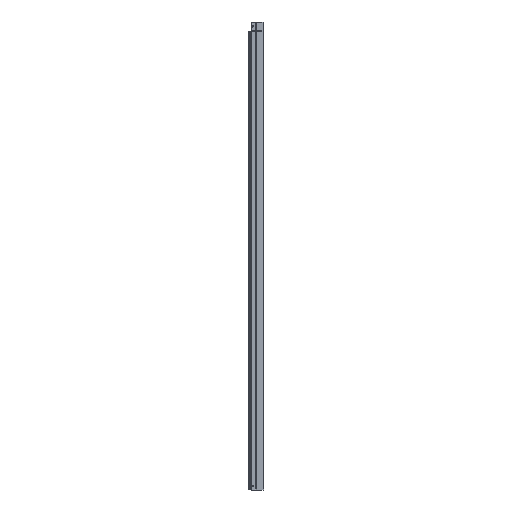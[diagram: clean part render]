
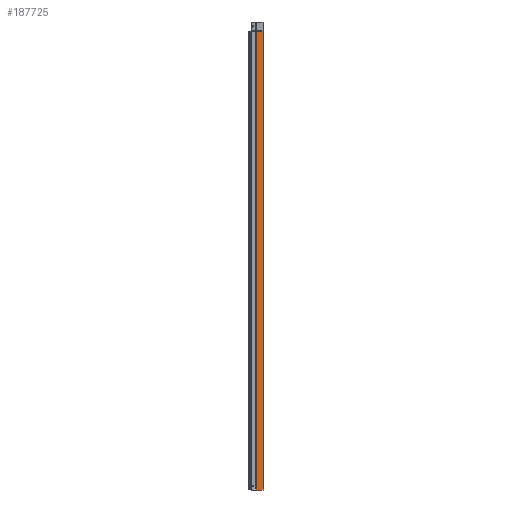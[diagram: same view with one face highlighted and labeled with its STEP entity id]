
A CAD part, left-side view. The second image highlights one B-rep face of the part: STEP entity #187725.
In plain terms, the highlighted planar face has unit normal (-1, 0, 0).
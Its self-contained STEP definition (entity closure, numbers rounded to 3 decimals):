
#3038 = EDGE_CURVE ( 'NONE', #248829, #86070, #229659, .T. ) ;
#19196 = CARTESIAN_POINT ( 'NONE',  ( -75., 4.327, -2941.5 ) ) ;
#28799 = CARTESIAN_POINT ( 'NONE',  ( -75., 18.066, 0. ) ) ;
#33756 = VECTOR ( 'NONE', #191641, 1000. ) ;
#53595 = CARTESIAN_POINT ( 'NONE',  ( -75., 45.545, 0. ) ) ;
#56801 = FACE_OUTER_BOUND ( 'NONE', #148043, .T. ) ;
#61720 = CARTESIAN_POINT ( 'NONE',  ( -75., 45.545, -2941.5 ) ) ;
#67792 = LINE ( 'NONE', #188375, #33756 ) ;
#79498 = CARTESIAN_POINT ( 'NONE',  ( -75., 45.545, -2941.5 ) ) ;
#86070 = VERTEX_POINT ( 'NONE', #173992 ) ;
#95159 = DIRECTION ( 'NONE',  ( 0., 0., 1. ) ) ;
#105798 = EDGE_CURVE ( 'NONE', #274114, #248829, #130652, .T. ) ;
#112035 = EDGE_CURVE ( 'NONE', #269054, #86070, #322996, .T. ) ;
#116117 = CARTESIAN_POINT ( 'NONE',  ( -75., 45.545, -2941.5 ) ) ;
#129503 = CARTESIAN_POINT ( 'NONE',  ( -75., 4.327, 0. ) ) ;
#130652 = LINE ( 'NONE', #79498, #131991 ) ;
#131991 = VECTOR ( 'NONE', #231402, 1000. ) ;
#148043 = EDGE_LOOP ( 'NONE', ( #219941, #211397, #252559, #307431 ) ) ;
#160064 = CARTESIAN_POINT ( 'NONE',  ( -75., 4.327, -2941.5 ) ) ;
#167324 = DIRECTION ( 'NONE',  ( 0., -1., 0. ) ) ;
#173992 = CARTESIAN_POINT ( 'NONE',  ( -75., 4.327, 0. ) ) ;
#187725 = ADVANCED_FACE ( 'NONE', ( #56801 ), #258274, .T. ) ;
#188375 = CARTESIAN_POINT ( 'NONE',  ( -75., 45.545, -2941.5 ) ) ;
#191641 = DIRECTION ( 'NONE',  ( 0., -1., 0. ) ) ;
#198279 = EDGE_CURVE ( 'NONE', #274114, #269054, #67792, .T. ) ;
#211146 = VECTOR ( 'NONE', #95159, 1000. ) ;
#211397 = ORIENTED_EDGE ( 'NONE', *, *, #105798, .F. ) ;
#214445 = AXIS2_PLACEMENT_3D ( 'NONE', #61720, #287933, #167324 ) ;
#219941 = ORIENTED_EDGE ( 'NONE', *, *, #3038, .F. ) ;
#229659 = B_SPLINE_CURVE_WITH_KNOTS ( 'NONE', 3,
 ( #53595, #255043, #28799, #129503 ),
 .UNSPECIFIED., .F., .F.,
 ( 4, 4 ),
 ( 0., 1. ),
 .UNSPECIFIED. ) ;
#231402 = DIRECTION ( 'NONE',  ( 0., 0., 1. ) ) ;
#248829 = VERTEX_POINT ( 'NONE', #283746 ) ;
#252559 = ORIENTED_EDGE ( 'NONE', *, *, #198279, .T. ) ;
#255043 = CARTESIAN_POINT ( 'NONE',  ( -75., 31.806, 0. ) ) ;
#258274 = PLANE ( 'NONE',  #214445 ) ;
#269054 = VERTEX_POINT ( 'NONE', #160064 ) ;
#274114 = VERTEX_POINT ( 'NONE', #116117 ) ;
#283746 = CARTESIAN_POINT ( 'NONE',  ( -75., 45.545, 0. ) ) ;
#287933 = DIRECTION ( 'NONE',  ( -1., 0., 0. ) ) ;
#307431 = ORIENTED_EDGE ( 'NONE', *, *, #112035, .T. ) ;
#322996 = LINE ( 'NONE', #19196, #211146 ) ;
